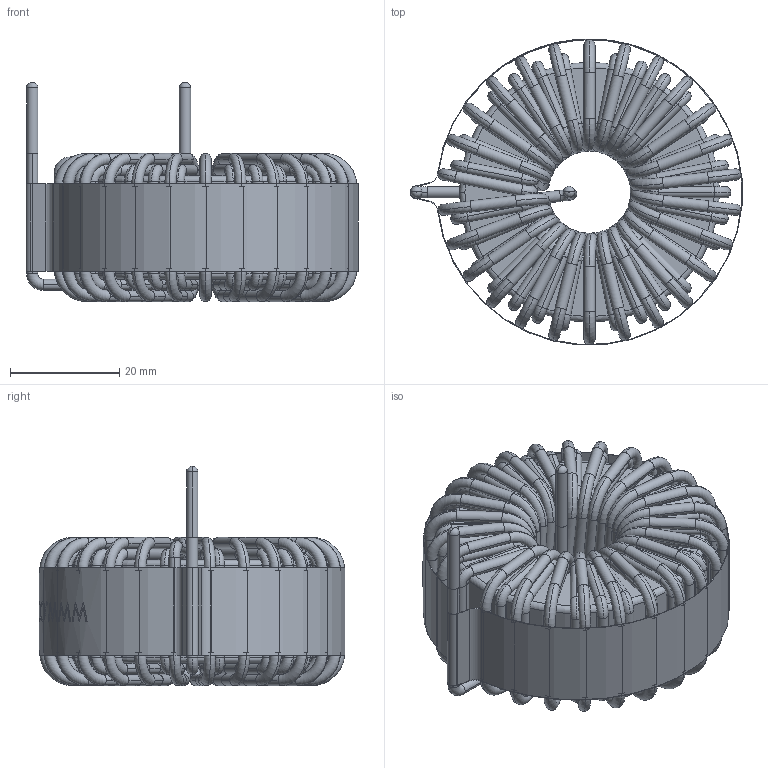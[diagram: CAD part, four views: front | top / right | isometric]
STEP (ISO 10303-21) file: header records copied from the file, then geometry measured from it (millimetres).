
FILE_DESCRIPTION (( 'STEP AP214' ), '1' );
FILE_NAME ('HF467-102M-26AH.step', '2021-03-04T09:51:34', ( '' ), ( '' ), 'SwSTEP 2.0', 'SolidWorks 2015', '' );
FILE_SCHEMA (( 'AUTOMOTIVE_DESIGN' ));
Length unit declared in the file: millimetre
Products named in the file (4): WRAPPER; HF467-102M-26AH; WINDING; CORE
Assembly tree (3 placements, depth 2):
  HF467-102M-26AH
    CORE
    WINDING
    WRAPPER
Bounding box: 60.73 x 55.95 x 40.1 mm (x, y, z)
Volume: 40589.7 mm3; surface area: 41847.9 mm2
Topology: 58 solids, 58 shells, 1419 faces, 3803 edges, 2510 vertices
Faces by surface type: cylinder 652, torus 505, plane 159, bspline 103
Entity records: 71766 total; most frequent: CARTESIAN_POINT 18656, DIRECTION 8804, ORIENTED_EDGE 7606, AXIS2_PLACEMENT_3D 4066, EDGE_CURVE 3803, CIRCLE 2744, VERTEX_POINT 2510, UNCERTAINTY_MEASURE_WITH_UNIT 1452
